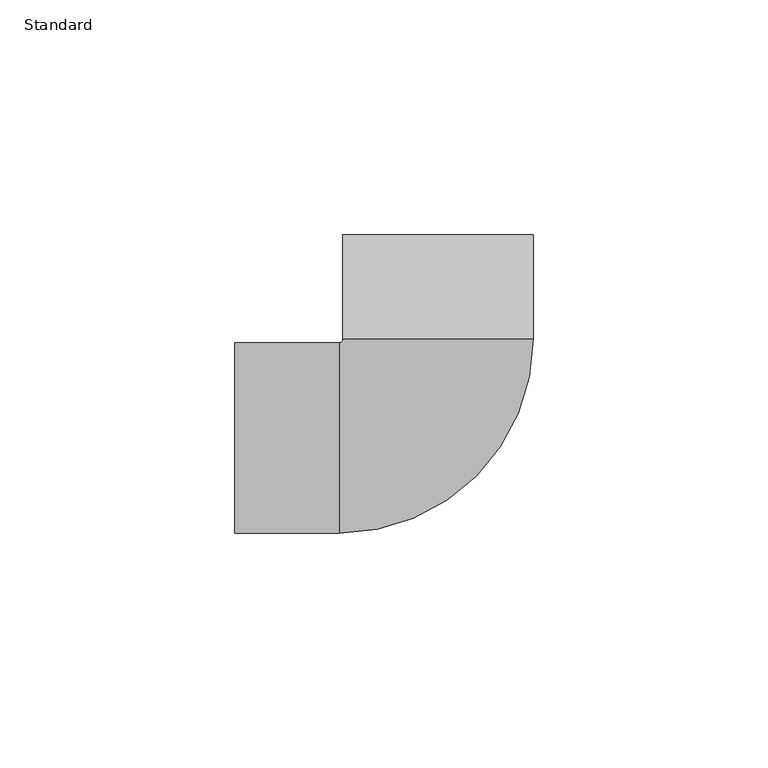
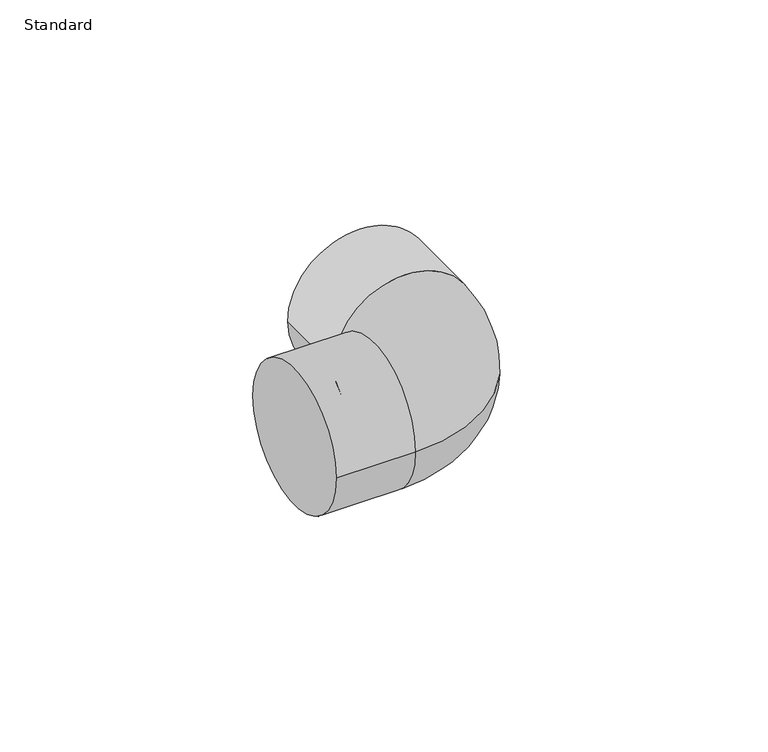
"""IFC4 building model written with IfcOpenShell, lengths in millimetres: pipe fitting geometry, M_Elbow - CPVC - Sch 40 : Standard."""

from ifc_helpers import new_model, si_unit, point, frame, origin, place, context, project, spatial, circle_curve, ellipse_curve, trimmed, source, transform, mapped, element, save
from ifc_brep_helpers import plane_surface, cylinder_surface, revolved_surface, advanced_brep


def standard_96815b99(model_context):
    return source(origin(), model_context, "Body", "AdvancedBrep", [
        advanced_brep(
        [(-43.2625472, -20.2438, 0.0), (-43.2625472, 20.2438, 0.0), (-21.0375472, -20.2438, 0.0), (-21.0375472, 20.2438, 0.0), (-20.2437972, 21.0375499, 0.0), (20.2438028, 21.0375445, 0.0), (20.2438057, 43.2625445, 0.0), (-20.2437943, 43.2625499, 0.0)],
        [
            (0, 1, circle_curve(frame((-43.2625472, 0.0, 0.0), z_axis=(-1.0, 0.0, 0.0), x_axis=(0.0, 1.0, 0.0)), 20.2438)),
            (1, 0, circle_curve(frame((-43.2625472, 0.0, 0.0), z_axis=(-1.0, 0.0, 0.0), x_axis=(0.0, 1.0, 0.0)), 20.2438)),
            (0, 2),
            (2, 3, circle_curve(frame((-21.0375472, 0.0, 0.0), z_axis=(-1.0, 0.0, 0.0), x_axis=(0.0, 1.0, 0.0)), 20.2438)),
            (3, 1),
            (3, 2, circle_curve(frame((-21.0375472, 0.0, 0.0), z_axis=(-1.0, 0.0, 0.0), x_axis=(0.0, 1.0, 0.0)), 20.2438)),
            (4, 3, circle_curve(frame((-21.0375472, 21.03755, 0.0), z_axis=(0.0, 0.0, -1.0), x_axis=(0.0, -1.0, 0.0)), 0.79375)),
            (2, 5, circle_curve(frame((-21.0375472, 21.03755, 0.0), z_axis=(0.0, 0.0, 1.0), x_axis=(0.0, -1.0, 0.0)), 41.28135)),
            (5, 4, circle_curve(frame((2.8e-06, 21.0375472, 0.0), z_axis=(-1.3223176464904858e-07, -0.9999999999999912, 0.0), x_axis=(-0.9999999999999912, 1.3223176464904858e-07, 0.0)), 20.2438)),
            (4, 5, circle_curve(frame((2.8e-06, 21.0375472, 0.0), z_axis=(-1.3223176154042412e-07, -0.9999999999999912, 0.0), x_axis=(-0.9999999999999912, 1.3223176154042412e-07, 0.0)), 20.2438)),
            (6, 7, circle_curve(frame((5.7e-06, 43.2625472, 0.0), z_axis=(1.3223176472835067e-07, 0.9999999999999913, 0.0), x_axis=(-0.9999999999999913, 1.3223176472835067e-07, 0.0)), 20.2438)),
            (7, 6, circle_curve(frame((5.7e-06, 43.2625472, 0.0), z_axis=(1.3223176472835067e-07, 0.9999999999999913, 0.0), x_axis=(-0.9999999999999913, 1.3223176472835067e-07, 0.0)), 20.2438)),
            (5, 6),
            (7, 4),
        ],
        [
            plane_surface(frame((-43.2625472, 0.0, 0.0), z_axis=(-1.0, 0.0, 0.0), x_axis=(0.0, 0.0, 1.0))),
            cylinder_surface(frame((-43.2625472, 0.0, 0.0), z_axis=(-1.0, 0.0, 0.0), x_axis=(0.0, 1.0, 0.0)), 20.2438),
            revolved_surface(trimmed(ellipse_curve(frame((-21.0375472, 0.0, 0.0), z_axis=(-1.0, 0.0, 0.0), x_axis=(0.0, 1.0, 0.0)), 20.2438, 20.2438), [point((-21.0375472, -20.2438, 0.0))], [point((-21.0375472, 20.2438, 0.0))], True, "CARTESIAN"), (-21.0375472, 21.03755, 0.0), (0.0, 0.0, 1.0)),
            revolved_surface(trimmed(ellipse_curve(frame((-21.0375472, 0.0, 0.0), z_axis=(-1.0, 0.0, 0.0), x_axis=(0.0, 1.0, 0.0)), 20.2438, 20.2438), [point((-21.0375472, 20.2438, 0.0))], [point((-21.0375472, -20.2438, 0.0))], True, "CARTESIAN"), (-21.0375472, 21.03755, 0.0), (0.0, 0.0, 1.0)),
            plane_surface(frame((5.7e-06, 43.2625472, 0.0), z_axis=(1.3223176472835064e-07, 0.9999999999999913, 0.0), x_axis=(0.0, 0.0, 1.0))),
            cylinder_surface(frame((2.8e-06, 21.0375472, 0.0), z_axis=(-1.3223176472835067e-07, -0.9999999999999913, 0.0), x_axis=(-0.9999999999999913, 1.3223176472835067e-07, 0.0)), 20.2438),
        ],
        [
            (0, [[1, 2]]),
            (1, [[-1, 3, 4, 5]]),
            (1, [[-2, -5, 6, -3]]),
            (2, [[7, -4, 8, 9]]),
            (3, [[-8, -6, -7, 10]]),
            (4, [[11, 12]]),
            (5, [[-9, 13, -12, 14]]),
            (5, [[-10, -14, -11, -13]]),
        ],
    ),
    ])


if __name__ == "__main__":
    model = new_model("IFC4")
    model_context = context("Model", 3, world=origin())
    ifc_project = project(units=[si_unit("LENGTHUNIT", "METRE", prefix="MILLI")], contexts=[model_context])
    site = spatial("IfcSite", under=ifc_project)
    building = spatial("IfcBuilding", under=site)
    placement = place(None, origin())
    standard_shape = standard_96815b99(model_context)
    element("IfcPipeFitting", 1, ObjectType="M_Elbow - CPVC - Sch 40 : Standard", at=placement, inside=building, context=model_context, shape_type="MappedRepresentation", body=[
        mapped(standard_shape, transform((0.0, 0.0, 0.0), x_axis=(1.0, 0.0, 0.0), y_axis=(0.0, 1.0, 0.0), z_axis=(0.0, 0.0, 1.0))),
    ])
    save(model, "model.ifc")
